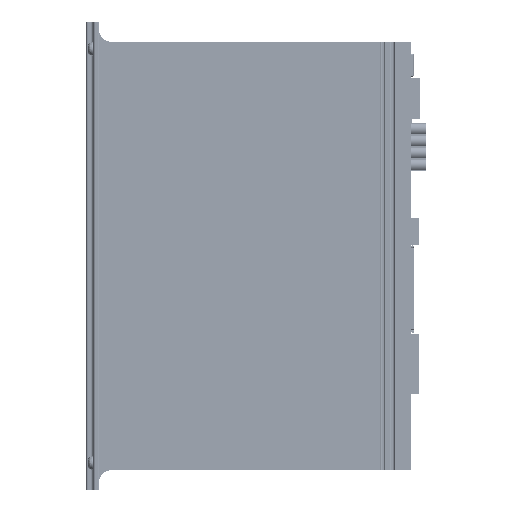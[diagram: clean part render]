
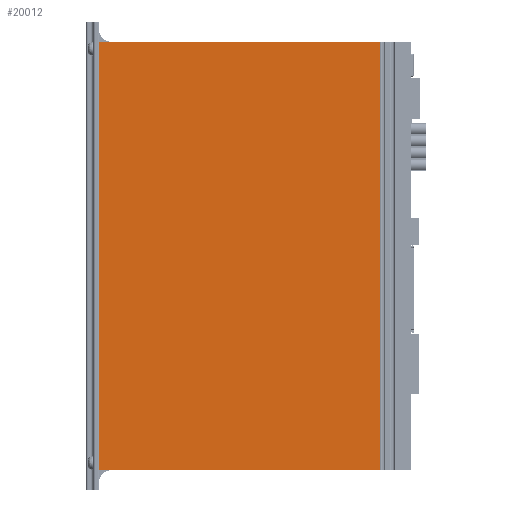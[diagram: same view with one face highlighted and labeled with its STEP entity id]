
A CAD part, front view. The second image highlights one B-rep face of the part: STEP entity #20012.
In plain terms, the highlighted planar face has unit normal (0, -1, 0) as drawn and (-1, 0, 0) by its records, which use the part's own axes.
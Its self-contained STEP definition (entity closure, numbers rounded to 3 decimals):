
#8982=DIRECTION('',(0.,-1.,0.));
#8983=VECTOR('',#8982,179.4);
#8984=CARTESIAN_POINT('',(-23.5,89.7,13.));
#8985=LINE('',#8984,#8983);
#8989=DIRECTION('',(0.,0.,-1.));
#8990=VECTOR('',#8989,118.1);
#8991=CARTESIAN_POINT('',(-23.5,89.7,131.1));
#8992=LINE('',#8991,#8990);
#8996=DIRECTION('',(0.,0.,-1.));
#8997=VECTOR('',#8996,118.1);
#8998=CARTESIAN_POINT('',(-23.5,-89.7,131.1));
#8999=LINE('',#8998,#8997);
#11299=DIRECTION('',(0.,-1.,0.));
#11300=VECTOR('',#11299,179.4);
#11301=CARTESIAN_POINT('',(-23.5,89.7,131.1));
#11302=LINE('',#11301,#11300);
#18161=CARTESIAN_POINT('',(-23.5,-89.7,131.1));
#18163=VERTEX_POINT('',#18161);
#18190=CARTESIAN_POINT('',(-23.5,89.7,131.1));
#18192=VERTEX_POINT('',#18190);
#18777=CARTESIAN_POINT('',(-23.5,89.7,13.));
#18778=CARTESIAN_POINT('',(-23.5,-89.7,13.));
#18779=VERTEX_POINT('',#18777);
#18780=VERTEX_POINT('',#18778);
#19997=CARTESIAN_POINT('',(-23.5,90.,0.));
#19998=DIRECTION('',(-1.,0.,0.));
#19999=DIRECTION('',(0.,-1.,0.));
#20000=AXIS2_PLACEMENT_3D('',#19997,#19998,#19999);
#20001=PLANE('',#20000);
#20003=ORIENTED_EDGE('',*,*,#20002,.F.);
#20005=ORIENTED_EDGE('',*,*,#20004,.F.);
#20007=ORIENTED_EDGE('',*,*,#20006,.T.);
#20009=ORIENTED_EDGE('',*,*,#20008,.T.);
#20010=EDGE_LOOP('',(#20003,#20005,#20007,#20009));
#20011=FACE_OUTER_BOUND('',#20010,.F.);
#20002=EDGE_CURVE('',#18779,#18780,#8985,.T.);
#20004=EDGE_CURVE('',#18192,#18779,#8992,.T.);
#20006=EDGE_CURVE('',#18192,#18163,#11302,.T.);
#20008=EDGE_CURVE('',#18163,#18780,#8999,.T.);
#20012=ADVANCED_FACE('',(#20011),#20001,.T.);
